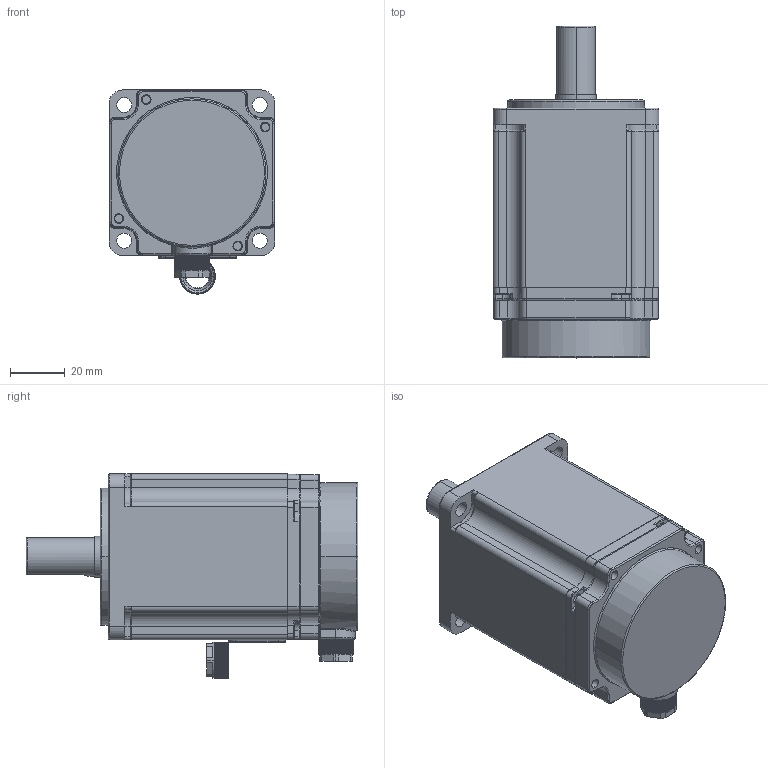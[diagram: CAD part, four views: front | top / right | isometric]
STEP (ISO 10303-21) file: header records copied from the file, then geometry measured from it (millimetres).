
FILE_DESCRIPTION((''),'2;1');
FILE_NAME('60X6-400WDJZP_ASM','2022-07-22T',('maxiaochen'),(''),'PRO/ENGINEER BY PARAMETRIC TECHNOLOGY CORPORATION, 2008380','PRO/ENGINEER BY PARAMETRIC TECHNOLOGY CORPORATION, 2008380','');
FILE_SCHEMA(('CONFIG_CONTROL_DESIGN'));
Products named in the file (1): 60X6-400WDJZP_ASM
Bounding box: 60.5 x 121.1 x 74.5 mm (x, y, z)
Volume: 150803.4 mm3; surface area: 78252.5 mm2
Topology: 3 solids, 8 shells, 2405 faces, 5978 edges, 3667 vertices
Faces by surface type: plane 1457, cylinder 481, cone 212, torus 101, extrusion 93, bspline 57, sphere 4
Entity records: 77190 total; most frequent: CARTESIAN_POINT 19796, ORIENTED_EDGE 11948, DIRECTION 11914, EDGE_CURVE 5974, AXIS2_PLACEMENT_3D 4041, VECTOR 3832, LINE 3739, VERTEX_POINT 3667
